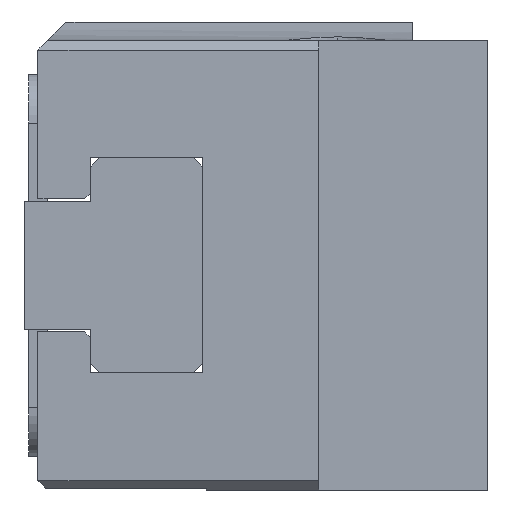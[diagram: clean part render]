
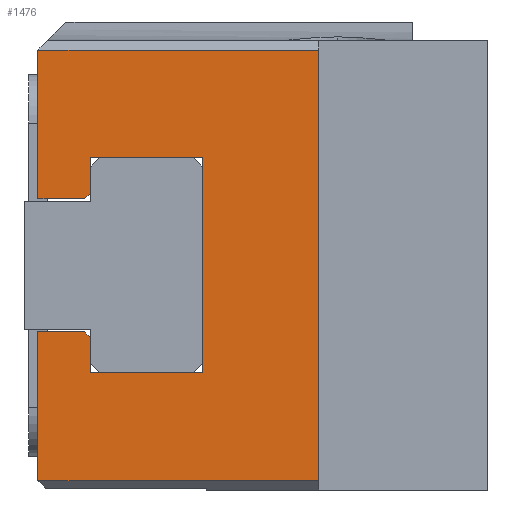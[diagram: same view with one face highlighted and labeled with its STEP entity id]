
A CAD part, left-side view. The second image highlights one B-rep face of the part: STEP entity #1476.
In plain terms, the highlighted planar face has unit normal (-1, 0, 0).
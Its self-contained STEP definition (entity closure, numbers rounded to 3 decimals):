
#55 = ORIENTED_EDGE ( 'NONE', *, *, #9091, .F. ) ;
#175 = CARTESIAN_POINT ( 'NONE',  ( -22.5, 15.2, 5.75 ) ) ;
#184 = LINE ( 'NONE', #11944, #832 ) ;
#204 = CARTESIAN_POINT ( 'NONE',  ( -22.5, 24., -3.55 ) ) ;
#572 = EDGE_CURVE ( 'NONE', #3703, #7929, #7864, .T. ) ;
#737 = LINE ( 'NONE', #7732, #6663 ) ;
#763 = CARTESIAN_POINT ( 'NONE',  ( -22.5, 0., -11.5 ) ) ;
#832 = VECTOR ( 'NONE', #12967, 1000. ) ;
#887 = ORIENTED_EDGE ( 'NONE', *, *, #3210, .F. ) ;
#998 = VERTEX_POINT ( 'NONE', #3562 ) ;
#1028 = EDGE_CURVE ( 'NONE', #5047, #12998, #1158, .T. ) ;
#1076 = EDGE_CURVE ( 'NONE', #8378, #998, #1978, .T. ) ;
#1104 = VECTOR ( 'NONE', #7358, 1000. ) ;
#1158 = LINE ( 'NONE', #4806, #5788 ) ;
#1232 = EDGE_LOOP ( 'NONE', ( #8797, #10083, #9578, #8294, #9720, #10990, #8811, #9264, #55, #887, #2124, #13010, #12015, #12328 ) ) ;
#1281 = VERTEX_POINT ( 'NONE', #175 ) ;
#1284 = CARTESIAN_POINT ( 'NONE',  ( -22.5, 24., 11.5 ) ) ;
#1382 = CARTESIAN_POINT ( 'NONE',  ( -22.5, 9., 11.5 ) ) ;
#1476 = ADVANCED_FACE ( 'NONE', ( #1635 ), #6281, .F. ) ;
#1635 = FACE_OUTER_BOUND ( 'NONE', #1232, .T. ) ;
#1667 = VECTOR ( 'NONE', #8053, 1000. ) ;
#1978 = LINE ( 'NONE', #763, #2764 ) ;
#2124 = ORIENTED_EDGE ( 'NONE', *, *, #9707, .F. ) ;
#2365 = CARTESIAN_POINT ( 'NONE',  ( -22.5, 0., 0. ) ) ;
#2423 = LINE ( 'NONE', #10040, #9270 ) ;
#2548 = DIRECTION ( 'NONE',  ( 0., 0., 1. ) ) ;
#2655 = LINE ( 'NONE', #10584, #10657 ) ;
#2764 = VECTOR ( 'NONE', #6754, 1000. ) ;
#3210 = EDGE_CURVE ( 'NONE', #11004, #1281, #3651, .T. ) ;
#3431 = EDGE_CURVE ( 'NONE', #9675, #6183, #6980, .T. ) ;
#3562 = CARTESIAN_POINT ( 'NONE',  ( -22.5, 9., -11.5 ) ) ;
#3589 = EDGE_CURVE ( 'NONE', #10254, #4744, #737, .T. ) ;
#3651 = LINE ( 'NONE', #7199, #6528 ) ;
#3703 = VERTEX_POINT ( 'NONE', #8042 ) ;
#3761 = DIRECTION ( 'NONE',  ( 0., 1., 0. ) ) ;
#4018 = VECTOR ( 'NONE', #3761, 1000. ) ;
#4128 = VECTOR ( 'NONE', #2548, 1000. ) ;
#4555 = VECTOR ( 'NONE', #12363, 1000. ) ;
#4744 = VERTEX_POINT ( 'NONE', #5086 ) ;
#4806 = CARTESIAN_POINT ( 'NONE',  ( -22.5, 21.2, 5.75 ) ) ;
#4972 = CARTESIAN_POINT ( 'NONE',  ( -22.5, 21.5, 3.55 ) ) ;
#5047 = VERTEX_POINT ( 'NONE', #5569 ) ;
#5066 = EDGE_CURVE ( 'NONE', #8378, #3703, #2655, .T. ) ;
#5086 = CARTESIAN_POINT ( 'NONE',  ( -22.5, 21.2, -5.75 ) ) ;
#5172 = VECTOR ( 'NONE', #10411, 1000. ) ;
#5340 = LINE ( 'NONE', #10282, #4555 ) ;
#5497 = VECTOR ( 'NONE', #5925, 1000. ) ;
#5569 = CARTESIAN_POINT ( 'NONE',  ( -22.5, 21.2, 5.75 ) ) ;
#5788 = VECTOR ( 'NONE', #10964, 1000. ) ;
#5803 = AXIS2_PLACEMENT_3D ( 'NONE', #2365, #9459, #7436 ) ;
#5925 = DIRECTION ( 'NONE',  ( 0., 1., 0. ) ) ;
#6172 = VERTEX_POINT ( 'NONE', #1382 ) ;
#6183 = VERTEX_POINT ( 'NONE', #9558 ) ;
#6281 = PLANE ( 'NONE',  #5803 ) ;
#6446 = LINE ( 'NONE', #10080, #5497 ) ;
#6528 = VECTOR ( 'NONE', #8216, 1000. ) ;
#6531 = LINE ( 'NONE', #1284, #1104 ) ;
#6542 = CARTESIAN_POINT ( 'NONE',  ( -22.5, 24., 3.55 ) ) ;
#6663 = VECTOR ( 'NONE', #12789, 1000. ) ;
#6754 = DIRECTION ( 'NONE',  ( 0., -1., 0. ) ) ;
#6855 = CARTESIAN_POINT ( 'NONE',  ( -22.5, 24., 3.55 ) ) ;
#6980 = LINE ( 'NONE', #6542, #4128 ) ;
#7087 = DIRECTION ( 'NONE',  ( 0., 0.707, -0.707 ) ) ;
#7120 = CARTESIAN_POINT ( 'NONE',  ( -22.5, 21.2, -5.75 ) ) ;
#7199 = CARTESIAN_POINT ( 'NONE',  ( -22.5, 15.2, -5.75 ) ) ;
#7358 = DIRECTION ( 'NONE',  ( 0., -1., 0. ) ) ;
#7436 = DIRECTION ( 'NONE',  ( 0., 0., -1. ) ) ;
#7732 = CARTESIAN_POINT ( 'NONE',  ( -22.5, 21.2, -3.85 ) ) ;
#7781 = DIRECTION ( 'NONE',  ( 0., 0., 1. ) ) ;
#7864 = LINE ( 'NONE', #204, #5172 ) ;
#7891 = CARTESIAN_POINT ( 'NONE',  ( -22.5, 15.2, -5.75 ) ) ;
#7929 = VERTEX_POINT ( 'NONE', #9279 ) ;
#8042 = CARTESIAN_POINT ( 'NONE',  ( -22.5, 24., -3.55 ) ) ;
#8053 = DIRECTION ( 'NONE',  ( 0., -1., 0. ) ) ;
#8216 = DIRECTION ( 'NONE',  ( 0., 0., 1. ) ) ;
#8294 = ORIENTED_EDGE ( 'NONE', *, *, #11776, .F. ) ;
#8378 = VERTEX_POINT ( 'NONE', #9077 ) ;
#8649 = LINE ( 'NONE', #10813, #4018 ) ;
#8797 = ORIENTED_EDGE ( 'NONE', *, *, #5066, .F. ) ;
#8811 = ORIENTED_EDGE ( 'NONE', *, *, #12257, .F. ) ;
#9077 = CARTESIAN_POINT ( 'NONE',  ( -22.5, 24., -11.5 ) ) ;
#9091 = EDGE_CURVE ( 'NONE', #1281, #5047, #6446, .T. ) ;
#9264 = ORIENTED_EDGE ( 'NONE', *, *, #1028, .F. ) ;
#9270 = VECTOR ( 'NONE', #7087, 1000. ) ;
#9279 = CARTESIAN_POINT ( 'NONE',  ( -22.5, 21.5, -3.55 ) ) ;
#9286 = EDGE_CURVE ( 'NONE', #6172, #998, #5340, .T. ) ;
#9459 = DIRECTION ( 'NONE',  ( 1., 0., 0. ) ) ;
#9558 = CARTESIAN_POINT ( 'NONE',  ( -22.5, 24., 11.5 ) ) ;
#9578 = ORIENTED_EDGE ( 'NONE', *, *, #9286, .F. ) ;
#9675 = VERTEX_POINT ( 'NONE', #6855 ) ;
#9707 = EDGE_CURVE ( 'NONE', #4744, #11004, #9806, .T. ) ;
#9720 = ORIENTED_EDGE ( 'NONE', *, *, #3431, .F. ) ;
#9806 = LINE ( 'NONE', #7120, #1667 ) ;
#10012 = CARTESIAN_POINT ( 'NONE',  ( -22.5, 21.2, -3.85 ) ) ;
#10040 = CARTESIAN_POINT ( 'NONE',  ( -22.5, 21.2, 3.85 ) ) ;
#10080 = CARTESIAN_POINT ( 'NONE',  ( -22.5, 15.2, 5.75 ) ) ;
#10083 = ORIENTED_EDGE ( 'NONE', *, *, #1076, .T. ) ;
#10254 = VERTEX_POINT ( 'NONE', #10012 ) ;
#10282 = CARTESIAN_POINT ( 'NONE',  ( -22.5, 9., 12. ) ) ;
#10361 = EDGE_CURVE ( 'NONE', #7929, #10254, #184, .T. ) ;
#10411 = DIRECTION ( 'NONE',  ( 0., -1., 0. ) ) ;
#10584 = CARTESIAN_POINT ( 'NONE',  ( -22.5, 24., -12. ) ) ;
#10657 = VECTOR ( 'NONE', #7781, 1000. ) ;
#10747 = CARTESIAN_POINT ( 'NONE',  ( -22.5, 21.2, 3.85 ) ) ;
#10762 = EDGE_CURVE ( 'NONE', #12005, #9675, #8649, .T. ) ;
#10813 = CARTESIAN_POINT ( 'NONE',  ( -22.5, 21.5, 3.55 ) ) ;
#10964 = DIRECTION ( 'NONE',  ( 0., 0., -1. ) ) ;
#10990 = ORIENTED_EDGE ( 'NONE', *, *, #10762, .F. ) ;
#11004 = VERTEX_POINT ( 'NONE', #7891 ) ;
#11776 = EDGE_CURVE ( 'NONE', #6183, #6172, #6531, .T. ) ;
#11944 = CARTESIAN_POINT ( 'NONE',  ( -22.5, 21.5, -3.55 ) ) ;
#12005 = VERTEX_POINT ( 'NONE', #4972 ) ;
#12015 = ORIENTED_EDGE ( 'NONE', *, *, #10361, .F. ) ;
#12257 = EDGE_CURVE ( 'NONE', #12998, #12005, #2423, .T. ) ;
#12328 = ORIENTED_EDGE ( 'NONE', *, *, #572, .F. ) ;
#12363 = DIRECTION ( 'NONE',  ( 0., 0., -1. ) ) ;
#12789 = DIRECTION ( 'NONE',  ( 0., 0., -1. ) ) ;
#12967 = DIRECTION ( 'NONE',  ( 0., -0.707, -0.707 ) ) ;
#12998 = VERTEX_POINT ( 'NONE', #10747 ) ;
#13010 = ORIENTED_EDGE ( 'NONE', *, *, #3589, .F. ) ;
